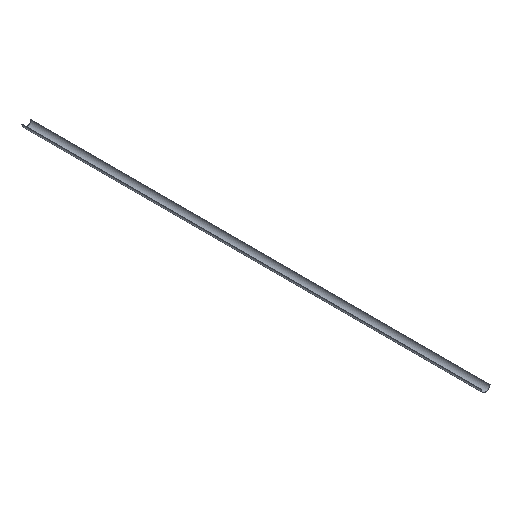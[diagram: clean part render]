
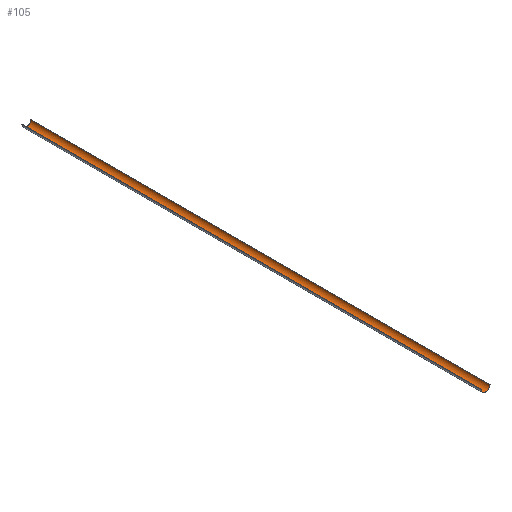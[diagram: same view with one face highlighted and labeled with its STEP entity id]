
A CAD part, isometric view. The second image highlights one B-rep face of the part: STEP entity #105.
In plain terms, the highlighted cylindrical face has radius 28 mm (diameter 56 mm), a partial arc.
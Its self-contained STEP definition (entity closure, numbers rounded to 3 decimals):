
#13=CYLINDRICAL_SURFACE($,#117,28.);
#18=FACE_OUTER_BOUND($,#24,.T.);
#24=EDGE_LOOP($,(#82,#83,#84,#85));
#26=CIRCLE($,#111,28.);
#29=CIRCLE($,#118,28.);
#34=LINE($,#165,#42);
#37=LINE($,#173,#45);
#42=VECTOR($,#134,3000.);
#45=VECTOR($,#143,3000.);
#46=VERTEX_POINT($,#152);
#48=VERTEX_POINT($,#155);
#50=VERTEX_POINT($,#161);
#53=VERTEX_POINT($,#171);
#55=EDGE_CURVE($,#48,#46,#26,.T.);
#60=EDGE_CURVE($,#50,#48,#34,.T.);
#64=EDGE_CURVE($,#46,#53,#37,.T.);
#65=EDGE_CURVE($,#53,#50,#29,.T.);
#82=ORIENTED_EDGE($,*,*,#65,.T.);
#83=ORIENTED_EDGE($,*,*,#60,.T.);
#84=ORIENTED_EDGE($,*,*,#55,.T.);
#85=ORIENTED_EDGE($,*,*,#64,.T.);
#105=ADVANCED_FACE($,(#18),#13,.F.);
#111=AXIS2_PLACEMENT_3D($,#156,#125,#126);
#117=AXIS2_PLACEMENT_3D($,#174,#144,#145);
#118=AXIS2_PLACEMENT_3D($,#175,#146,#147);
#125=DIRECTION('center_axis',(0.,-1.,0.));
#126=DIRECTION('ref_axis',(-1.,0.,0.));
#134=DIRECTION($,(0.,-1.,0.));
#143=DIRECTION($,(0.,1.,0.));
#144=DIRECTION('center_axis',(0.,1.,0.));
#145=DIRECTION('ref_axis',(-1.,0.,0.));
#146=DIRECTION('center_axis',(0.,1.,0.));
#147=DIRECTION('ref_axis',(-1.,0.,0.));
#152=CARTESIAN_POINT('',(28.,-1500.,0.));
#155=CARTESIAN_POINT('',(-28.,-1500.,0.));
#156=CARTESIAN_POINT('Origin',(0.,-1500.,0.));
#161=CARTESIAN_POINT('',(-28.,1500.,0.));
#165=CARTESIAN_POINT($,(-28.,0.,0.));
#171=CARTESIAN_POINT('',(28.,1500.,0.));
#173=CARTESIAN_POINT($,(28.,0.,0.));
#174=CARTESIAN_POINT('Origin',(0.,0.,0.));
#175=CARTESIAN_POINT('Origin',(0.,1500.,0.));
